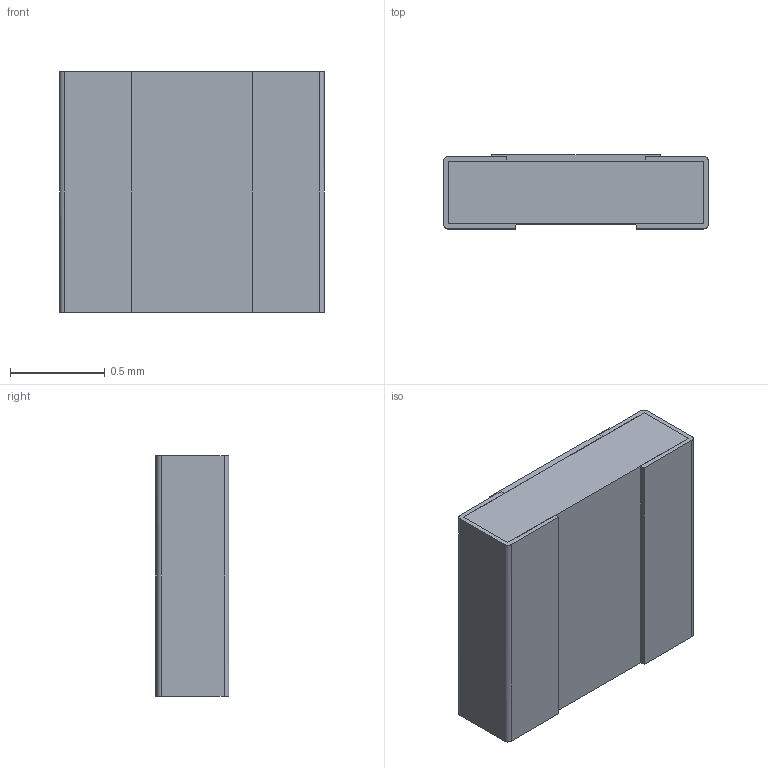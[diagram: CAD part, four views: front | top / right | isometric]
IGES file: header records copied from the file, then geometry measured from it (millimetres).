
Global section: file name: PTN0505; native system: Autodesk Inventor LT ; preprocessor: unknown; author: Neil; date: 20200108.145526; units: inch
Bounding box: 1.4 x 0.39 x 1.27 mm (x, y, z)
Volume: 0.7 mm3; surface area: 14.4 mm2
Topology: 5 solids, 5 shells, 82 faces, 216 edges, 144 vertices
Faces by surface type: bspline 82
